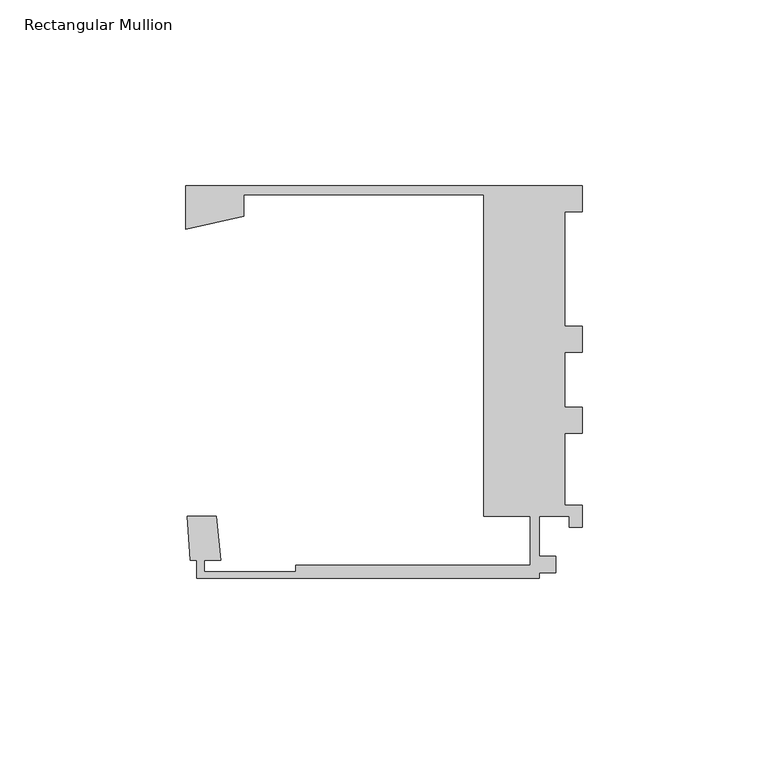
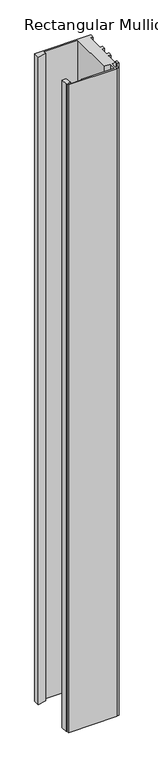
"""IFC4 building model written with IfcOpenShell, lengths in millimetres: member geometry, Rectangular Mullion : Danpal_Airpt_End-Mullion_B1."""

import ifcopenshell
import ifcopenshell.guid

model = None  # the IFC model being written
_history = None  # IfcOwnerHistory: only IFC2X3 demands one
_inside = {}  # id of a spatial element -> (the spatial element, [elements in it])
_under = {}  # id of a project, library or spatial element -> (it, [spatial elements below it])
_declared = {}  # id of a project -> (the project, [libraries it declares])
_typed = {}  # id of a type object -> (the type object, [elements of that type])
_made_of = {}  # id of a material, layer set ... -> (it, [elements and type objects made of it])


def new_model(schema):
    """Start an empty IFC model of exactly this schema.

    Asked for "IFC4X3", IfcOpenShell would pick the latest addendum, in which some entities
    have other attributes; the version numbers below select the first issue.
    IFC2X3 requires an IfcOwnerHistory on every rooted entity: one is made here for all.
    """
    global model, _history
    if schema == "IFC4X3":
        model = ifcopenshell.file(schema_version=(4, 3, 0, 0))
    else:
        model = ifcopenshell.file(schema=schema)
    _inside.clear()
    _under.clear()
    _declared.clear()
    _typed.clear()
    _made_of.clear()
    _history = None
    if model.schema == "IFC2X3":
        org = make("IfcOrganization", Name="unknown")
        user = make(
            "IfcPersonAndOrganization",
            ThePerson=make("IfcPerson", FamilyName="unknown"),
            TheOrganization=org,
        )
        app = make(
            "IfcApplication",
            ApplicationDeveloper=org,
            Version="unknown",
            ApplicationFullName="unknown",
            ApplicationIdentifier="unknown",
        )
        _history = make(
            "IfcOwnerHistory",
            OwningUser=user,
            OwningApplication=app,
            ChangeAction="ADDED",
            CreationDate=0,
        )
    return model


def make(cls, **values):
    """One entity of the class cls with the attributes given. An attribute that is None is left unset."""
    return model.create_entity(
        cls, **{name: value for name, value in values.items() if value is not None}
    )


def rooted(cls, **values):
    """An entity with a GlobalId (a new one), such as an element, a storey or a relation."""
    return make(cls, GlobalId=ifcopenshell.guid.new(), OwnerHistory=_history, **values)


def si_unit(unit_type, name, prefix=None):
    """IfcSIUnit, for example si_unit("LENGTHUNIT", "METRE", prefix="MILLI")."""
    return make("IfcSIUnit", UnitType=unit_type, Prefix=prefix, Name=name)


def assignment(units):
    """IfcUnitAssignment: the units of a project."""
    return None if units is None else make("IfcUnitAssignment", Units=units)


def point(xyz):
    """IfcCartesianPoint."""
    return None if xyz is None else make("IfcCartesianPoint", Coordinates=xyz)


def direction(xyz):
    """IfcDirection."""
    return None if xyz is None else make("IfcDirection", DirectionRatios=xyz)


def frame(location, z_axis=None, x_axis=None):
    """IfcAxis2Placement3D, a coordinate frame: its origin and axes. An axis left out is left unset."""
    return make(
        "IfcAxis2Placement3D",
        Location=point(location),
        Axis=direction(z_axis),
        RefDirection=direction(x_axis),
    )


def origin():
    """The frame at (0, 0, 0) with its axes left unset."""
    return frame((0.0, 0.0, 0.0))


def place(relative_to, where):
    """IfcLocalPlacement: puts the frame where relative to a parent placement (None: the world)."""
    return make(
        "IfcLocalPlacement", PlacementRelTo=relative_to, RelativePlacement=where
    )


def context(
    kind, dimensions, precision=None, world=None, true_north=None, identifier=None
):
    """IfcGeometricRepresentationContext, for example the 3D "Model" context."""
    return make(
        "IfcGeometricRepresentationContext",
        ContextIdentifier=identifier,
        ContextType=kind,
        CoordinateSpaceDimension=dimensions,
        Precision=precision,
        WorldCoordinateSystem=world,
        TrueNorth=true_north,
    )


def project(units=None, contexts=None):
    """IfcProject with its units and contexts."""
    return rooted(
        "IfcProject",
        Name="project",
        RepresentationContexts=contexts,
        UnitsInContext=assignment(units),
    )


def spatial(cls, under=None, at=None, **own):
    """A site, building, storey or space (cls), placed at a placement, below another one or the project."""
    s = rooted(cls, ObjectPlacement=at, **own)
    if under is not None:
        _under.setdefault(under.id(), (under, []))[1].append(s)
    return s


def polyline(points):
    """IfcPolyline through the points."""
    return make("IfcPolyline", Points=[point(p) for p in points])


def outline(outer, holes=None, kind="AREA"):
    """IfcArbitraryClosedProfileDef: a profile drawn as a closed curve; with holes, ...WithVoids."""
    if holes is None:
        return make("IfcArbitraryClosedProfileDef", ProfileType=kind, OuterCurve=outer)
    return make(
        "IfcArbitraryProfileDefWithVoids",
        ProfileType=kind,
        OuterCurve=outer,
        InnerCurves=holes,
    )


def extrude(swept, where, along, depth):
    """IfcExtrudedAreaSolid: the profile swept, set in the frame where, extruded along a direction by depth."""
    return make(
        "IfcExtrudedAreaSolid",
        SweptArea=swept,
        Position=where,
        ExtrudedDirection=direction(along),
        Depth=depth,
    )


def shape(context_of_items, identifier, shape_type, items):
    """IfcShapeRepresentation: the items that make up one representation, for example the "Body"."""
    return make(
        "IfcShapeRepresentation",
        ContextOfItems=context_of_items,
        RepresentationIdentifier=identifier,
        RepresentationType=shape_type,
        Items=items,
    )


def source(mapping_origin, context_of_items, identifier, shape_type, items):
    """IfcRepresentationMap: a shape defined once, which mapped items show again and again."""
    return make(
        "IfcRepresentationMap",
        MappingOrigin=mapping_origin,
        MappedRepresentation=shape(context_of_items, identifier, shape_type, items),
    )


def transform(
    local_origin,
    x_axis=None,
    y_axis=None,
    z_axis=None,
    scale=None,
    scale2=None,
    scale3=None,
    uniform=True,
):
    """IfcCartesianTransformationOperator3D, or its non-uniform kind. x_axis, y_axis, z_axis: its Axis1, 2, 3."""
    if uniform:
        return make(
            "IfcCartesianTransformationOperator3D",
            Axis1=direction(x_axis),
            Axis2=direction(y_axis),
            LocalOrigin=point(local_origin),
            Scale=scale,
            Axis3=direction(z_axis),
        )
    return make(
        "IfcCartesianTransformationOperator3DnonUniform",
        Axis1=direction(x_axis),
        Axis2=direction(y_axis),
        LocalOrigin=point(local_origin),
        Scale=scale,
        Axis3=direction(z_axis),
        Scale2=scale2,
        Scale3=scale3,
    )


def mapped(mapping_source, mapping_target):
    """IfcMappedItem: shows the shape of a source again, moved by a transform."""
    return make(
        "IfcMappedItem", MappingSource=mapping_source, MappingTarget=mapping_target
    )


def made_of(thing, what):
    """Note that an element or type object is made of a material, layer set ...; save() writes the relation."""
    if what is not None:
        _made_of.setdefault(what.id(), (what, []))[1].append(thing)
    return thing


def element(
    cls,
    number,
    at=None,
    inside=None,
    cuts=None,
    type_object=None,
    material=None,
    context=None,
    identifier="Body",
    shape_type=None,
    held_by="IfcProductDefinitionShape",
    body=None,
    shapes=None,
    **own,
):
    """One element of the class cls, such as IfcWall. Its Tag is "e" and its number.

    at: its placement. inside: the storey or other place that contains it. cuts: it is an
    opening in that element (IfcRelVoidsElement). A single representation is given by context,
    identifier, shape_type and body (its items); several are given by shapes. held_by: the class
    of the entity that holds the representations. save() writes the other relations.
    """
    e = rooted(cls, Tag="e%d" % number, ObjectPlacement=at, **own)
    if body is not None:
        shapes = [shape(context, identifier, shape_type, body)]
    if shapes is not None:
        e.Representation = make(held_by, Representations=shapes)
    if inside is not None:
        _inside.setdefault(inside.id(), (inside, []))[1].append(e)
    if cuts is not None:
        rooted(
            "IfcRelVoidsElement", RelatingBuildingElement=cuts, RelatedOpeningElement=e
        )
    if type_object is not None:
        _typed.setdefault(type_object.id(), (type_object, []))[1].append(e)
    return made_of(e, material)


def aggregate(whole, parts):
    """IfcRelAggregates: a whole, such as a stair, and the parts it consists of."""
    return rooted("IfcRelAggregates", RelatingObject=whole, RelatedObjects=parts)


def save(model, path):
    """Write the relations noted so far, then the file.

    IfcRelAggregates (storeys below a building ...), IfcRelContainedInSpatialStructure (elements
    in a storey), IfcRelDefinesByType, IfcRelAssociatesMaterial and IfcRelDeclares: one each for
    every whole, place, type object, material and project.
    """
    for whole, parts in _under.values():
        aggregate(whole, parts)
    for where, things in _inside.values():
        rooted(
            "IfcRelContainedInSpatialStructure",
            RelatedElements=things,
            RelatingStructure=where,
        )
    for kind, things in _typed.values():
        rooted("IfcRelDefinesByType", RelatedObjects=things, RelatingType=kind)
    for what, things in _made_of.values():
        rooted("IfcRelAssociatesMaterial", RelatedObjects=things, RelatingMaterial=what)
    for by, libraries in _declared.values():
        rooted("IfcRelDeclares", RelatingContext=by, RelatedDefinitions=libraries)
    model.write(path)


def rectangular_mullion_ac457c08(model_context):
    return source(origin(), model_context, "Body", "SweptSolid", [
        extrude(outline(polyline([(-11.6055875, -92.6094337), (-103.8999976, -92.6094337), (-103.8999976, -87.7698451), (-105.6776694, -87.7698451), (-106.4274982, -75.8596534), (-98.5693208, -75.8596534), (-97.4384397, -87.7698451), (-101.8999976, -87.7698451), (-101.8999976, -90.8094336), (-77.1531178, -90.8094336), (-77.1531178, -89.1094336), (-14.1055875, -89.1094336), (-14.1055875, -75.8596534), (-26.6209612, -75.8596534), (-26.6209612, 10.6837558), (-91.2900275, 10.6837558), (-91.2900275, 4.9090081), (-106.8892292, 1.4378016), (-106.8892292, 13.1837558), (0.0, 13.1837558), (0.0, 6.1837558), (-4.8, 6.1837558), (-4.8, -24.6595054), (0.0, -24.6595054), (0.0, -31.6595227), (-4.8, -31.6595227), (-4.8, -46.4688518), (0.0, -46.4688518), (0.0, -53.4688518), (-4.8, -53.4688518), (-4.8, -72.9077707), (0.0, -72.9077707), (0.0, -78.8594337), (-3.5072447, -78.8594337), (-3.5072447, -75.8594337), (-11.6055875, -75.8594337), (-11.6055875, -86.6049249), (-7.1518595, -86.6049249), (-7.1518595, -91.1094337), (-11.6055875, -91.1094337), (-11.6055875, -92.6094337)])), frame((0.0, 0.0, -1300.0), z_axis=(0.0, 0.0, 1.0), x_axis=(1.0, 0.0, 0.0)), (0.0, 0.0, 1.0), 1300.0),
    ])


if __name__ == "__main__":
    model = new_model("IFC4")
    model_context = context("Model", 3, world=origin())
    ifc_project = project(units=[si_unit("LENGTHUNIT", "METRE", prefix="MILLI")], contexts=[model_context])
    site = spatial("IfcSite", under=ifc_project)
    building = spatial("IfcBuilding", under=site)
    placement = place(None, origin())
    rectangular_mullion_shape = rectangular_mullion_ac457c08(model_context)
    element("IfcMember", 1, ObjectType="Rectangular Mullion : Danpal_Airpt_End-Mullion_B1", at=placement, inside=building, context=model_context, shape_type="MappedRepresentation", body=[
        mapped(rectangular_mullion_shape, transform((0.0, 0.0, 0.0), x_axis=(1.0, 0.0, 0.0), y_axis=(0.0, 1.0, 0.0), z_axis=(0.0, 0.0, 1.0))),
    ])
    save(model, "model.ifc")
